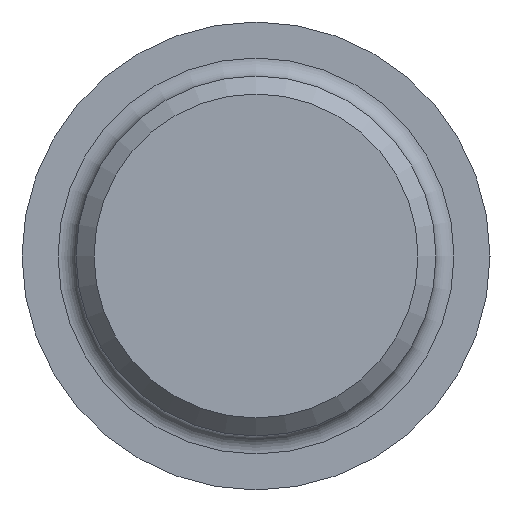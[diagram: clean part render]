
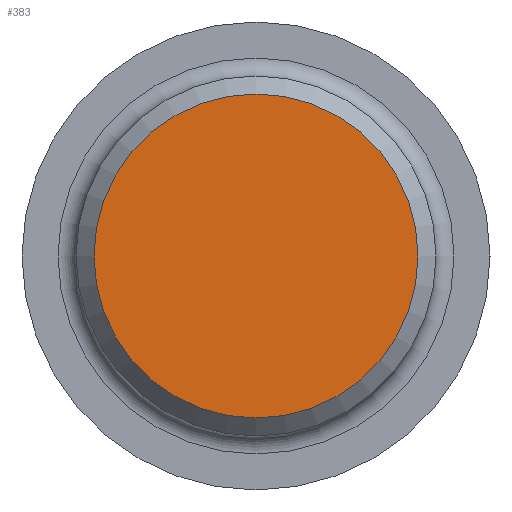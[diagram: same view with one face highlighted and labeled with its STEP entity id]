
A CAD part, left-side view. The second image highlights one B-rep face of the part: STEP entity #383.
In plain terms, the highlighted planar face has unit normal (-1, 0, 0).
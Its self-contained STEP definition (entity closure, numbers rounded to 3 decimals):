
#31=PLANE('',#456);
#96=FACE_OUTER_BOUND('',#124,.T.);
#124=EDGE_LOOP('',(#329));
#160=CIRCLE('',#455,9.);
#196=VERTEX_POINT('',#725);
#244=EDGE_CURVE('',#196,#196,#160,.T.);
#329=ORIENTED_EDGE('',*,*,#244,.F.);
#383=ADVANCED_FACE('',(#96),#31,.T.);
#455=AXIS2_PLACEMENT_3D('',#727,#566,#567);
#456=AXIS2_PLACEMENT_3D('',#728,#568,#569);
#566=DIRECTION('center_axis',(1.,0.,0.));
#567=DIRECTION('ref_axis',(0.,-1.,0.));
#568=DIRECTION('center_axis',(-1.,0.,0.));
#569=DIRECTION('ref_axis',(0.,0.,1.));
#725=CARTESIAN_POINT('',(0.,9.,0.));
#727=CARTESIAN_POINT('Origin',(0.,0.,
0.));
#728=CARTESIAN_POINT('Origin',(0.,5.,0.));
